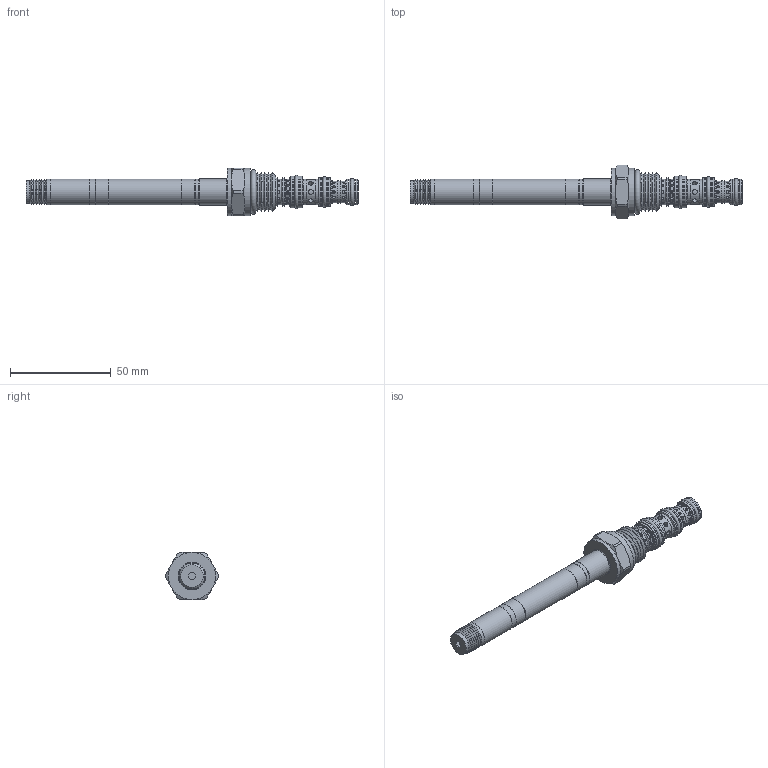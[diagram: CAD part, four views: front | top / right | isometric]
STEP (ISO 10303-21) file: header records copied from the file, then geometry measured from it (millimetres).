
FILE_DESCRIPTION(/* description */ (''),/* implementation_level */ '2;1');
FILE_NAME(/* name */ 'Q:\Delta CADD Insertion Codes\3D Solid models\Solenoid Valves\DWG\HPQS4O00.stp',/* time_stamp */ '2023-01-05T16:04:42-06:00',/* author */ ('Dan'),/* organization */ (''),/* preprocessor_version */ 'ST-DEVELOPER v17',/* originating_system */ 'Autodesk Inventor 2019',/* authorisation */ '');
FILE_SCHEMA (('AUTOMOTIVE_DESIGN { 1 0 10303 214 3 1 1 }'));
Length unit declared in the file: inch
Products named in the file (1): HPQS4O00
Bounding box: 164.87 x 26.49 x 23.55 mm (x, y, z)
Volume: 26377.5 mm3; surface area: 11935.8 mm2
Topology: 11 solids, 11 shells, 279 faces, 782 edges, 548 vertices
Faces by surface type: cylinder 167, plane 52, cone 52, torus 8
Full cylindrical faces by diameter (mm): 1.321 x48, 2.337 x8, 6.35 x1, 7.95 x1, 9.881 x1, 9.931 x2, 10.643 x2, 11.125 x1, 11.151 x3, 11.455 x1, 11.506 x2, 12.192 x1, 12.624 x4, 12.675 x3, 12.7 x1, 12.725 x4, 12.776 x3, 13.005 x1, 13.056 x1, 13.106 x2, 14.199 x4, 14.326 x3, 15.799 x5, 16.739 x1, 23.546 x2
Entity records: 12736 total; most frequent: CARTESIAN_POINT 5543, ORIENTED_EDGE 1564, DIRECTION 1418, EDGE_CURVE 782, AXIS2_PLACEMENT_3D 620, VERTEX_POINT 548, EDGE_LOOP 346, CIRCLE 340
